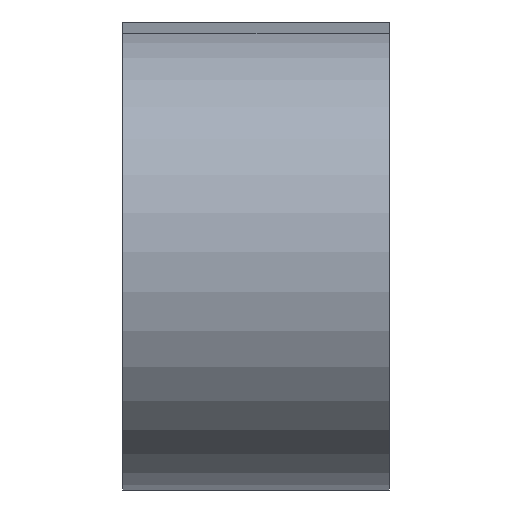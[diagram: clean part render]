
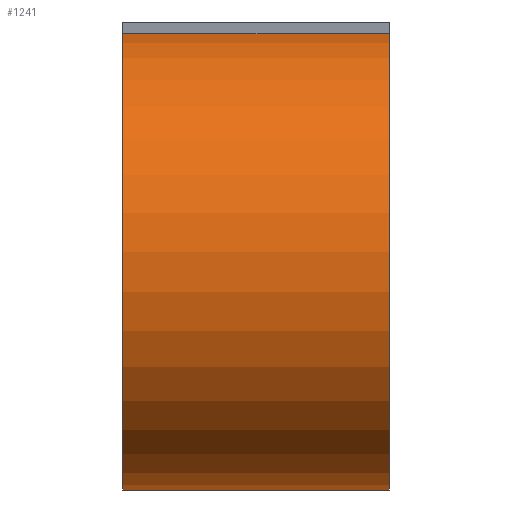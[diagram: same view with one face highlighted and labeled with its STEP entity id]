
A CAD part, left-side view. The second image highlights one B-rep face of the part: STEP entity #1241.
In plain terms, the highlighted cylindrical face has radius 73.3 mm (diameter 146.6 mm), a partial arc.
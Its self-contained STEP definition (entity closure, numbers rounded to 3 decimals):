
#94=CYLINDRICAL_SURFACE('',#1387,73.3);
#160=FACE_OUTER_BOUND('',#244,.T.);
#244=EDGE_LOOP('',(#1128,#1129,#1130,#1131));
#309=CIRCLE('',#1337,73.3);
#326=CIRCLE('',#1388,73.3);
#422=LINE('',#2125,#523);
#424=LINE('',#2129,#525);
#523=VECTOR('',#1733,10.);
#525=VECTOR('',#1737,10.);
#595=VERTEX_POINT('',#1974);
#596=VERTEX_POINT('',#1976);
#638=VERTEX_POINT('',#2124);
#639=VERTEX_POINT('',#2128);
#738=EDGE_CURVE('',#596,#595,#309,.T.);
#809=EDGE_CURVE('',#638,#596,#422,.T.);
#811=EDGE_CURVE('',#639,#595,#424,.T.);
#812=EDGE_CURVE('',#638,#639,#326,.T.);
#1128=ORIENTED_EDGE('',*,*,#738,.T.);
#1129=ORIENTED_EDGE('',*,*,#811,.F.);
#1130=ORIENTED_EDGE('',*,*,#812,.F.);
#1131=ORIENTED_EDGE('',*,*,#809,.T.);
#1241=ADVANCED_FACE('',(#160),#94,.T.);
#1337=AXIS2_PLACEMENT_3D('',#1977,#1580,#1581);
#1387=AXIS2_PLACEMENT_3D('',#2127,#1735,#1736);
#1388=AXIS2_PLACEMENT_3D('',#2130,#1738,#1739);
#1580=DIRECTION('center_axis',(0.,1.,0.));
#1581=DIRECTION('ref_axis',(0.458,0.,-0.889));
#1733=DIRECTION('',(0.,-1.,0.));
#1735=DIRECTION('center_axis',(0.,-1.,0.));
#1736=DIRECTION('ref_axis',(-0.952,0.,-0.305));
#1737=DIRECTION('',(0.,-1.,0.));
#1738=DIRECTION('center_axis',(0.,1.,0.));
#1739=DIRECTION('ref_axis',(0.458,0.,-0.889));
#1974=CARTESIAN_POINT('',(67.758,-42.5,33.788));
#1976=CARTESIAN_POINT('',(111.843,-42.5,-103.925));
#1977=CARTESIAN_POINT('Origin',(78.3,-42.5,-38.75));
#2124=CARTESIAN_POINT('',(111.843,42.5,-103.925));
#2125=CARTESIAN_POINT('',(111.843,42.5,-103.925));
#2127=CARTESIAN_POINT('Origin',(78.3,42.5,-38.75));
#2128=CARTESIAN_POINT('',(67.758,42.5,33.788));
#2129=CARTESIAN_POINT('',(67.758,42.5,33.788));
#2130=CARTESIAN_POINT('Origin',(78.3,42.5,-38.75));
